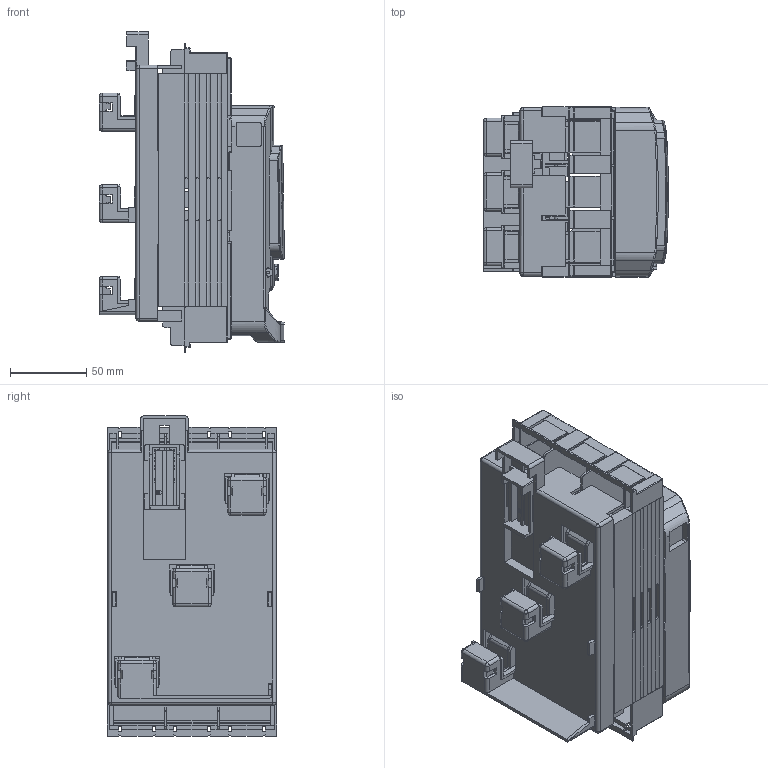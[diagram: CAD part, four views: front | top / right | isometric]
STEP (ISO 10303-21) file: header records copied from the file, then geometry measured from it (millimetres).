
FILE_DESCRIPTION(/* description */ (''),/* implementation_level */ '2;1');
FILE_NAME(/* name */ 'DNH1-160 31 新外观 总装 下端至系统上进线-带铅封锁-外发',/* time_stamp */ '2025-01-09T09:52:37+08:00',/* author */ (''),/* organization */ (''),/* preprocessor_version */ 'ST-DEVELOPER v19.2',/* originating_system */ 'Rhino 8.2',/* authorisation */ '');
FILE_SCHEMA (('CONFIG_CONTROL_DESIGN'));
Length unit declared in the file: millimetre
Products named in the file (1): Document
Bounding box: 121.35 x 111 x 209.5 mm (x, y, z)
Surface area: 233830.3 mm2 (no closed solid volume)
Topology: 0 solids, 46 shells, 1289 faces, 6330 edges, 4904 vertices
Faces by surface type: plane 782, cylinder 334, bspline 173
Entity records: 75230 total; most frequent: CARTESIAN_POINT 36178, ORIENTED_EDGE 9168, EDGE_CURVE 6312, B_SPLINE_CURVE_WITH_KNOTS 5061, VERTEX_POINT 4906, DIRECTION 3498, AXIS2_PLACEMENT_3D 2307, EDGE_LOOP 1395
